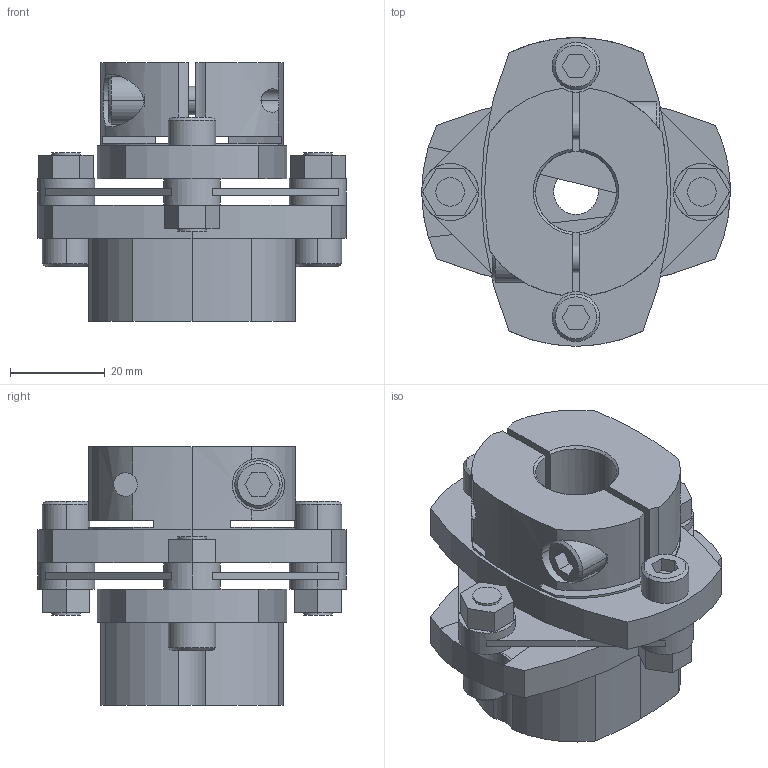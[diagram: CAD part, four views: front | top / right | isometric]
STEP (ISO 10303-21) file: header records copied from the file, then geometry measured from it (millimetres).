
FILE_DESCRIPTION((''),'2;1');
FILE_NAME('LCS-65M-11L亊17B.stp','2015-10-28T03:06:46',(''),(''),'AutoCAD STEP 2000i','AutoCAD 2000i',', , ');
FILE_SCHEMA(('CONFIG_CONTROL_DESIGN'));
Length unit declared in the file: millimetre
Products named in the file (7): LCS-65M-11L×16B; 忣兜1; LC65-B016; LC65M-L011; LC65-B014-1; LC65-B014; LCS65-ITA
Assembly tree (6 placements, depth 2):
  LCS-65M-11L×16B
    忣兜1
    LC65-B016
    LC65M-L011
    LC65-B014-1
    LC65-B014
    LCS65-ITA
Bounding box: 65 x 65 x 54.5 mm (x, y, z)
Volume: 77592.8 mm3; surface area: 26709 mm2
Topology: 1 solids, 1 shells, 228 faces, 602 edges, 394 vertices
Faces by surface type: plane 115, cylinder 92, cone 21
Entity records: 7573 total; most frequent: CARTESIAN_POINT 1539, DIRECTION 1288, ORIENTED_EDGE 1204, EDGE_CURVE 602, AXIS2_PLACEMENT_3D 473, VERTEX_POINT 394, VECTOR 342, LINE 342
